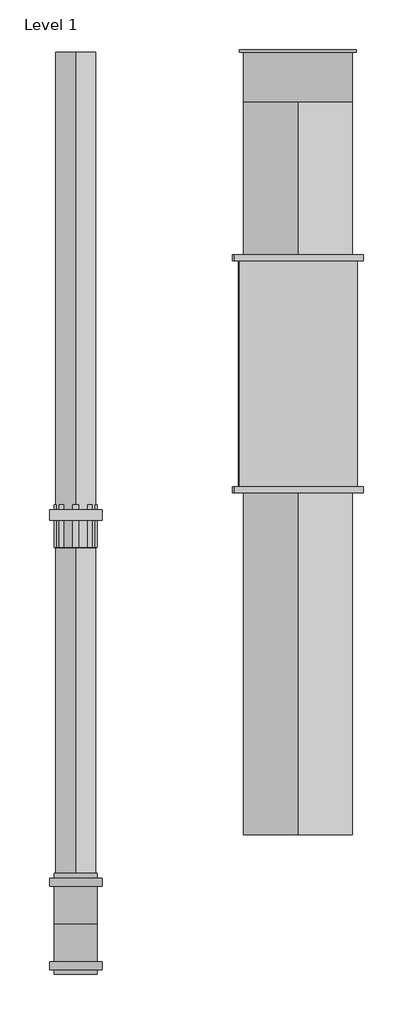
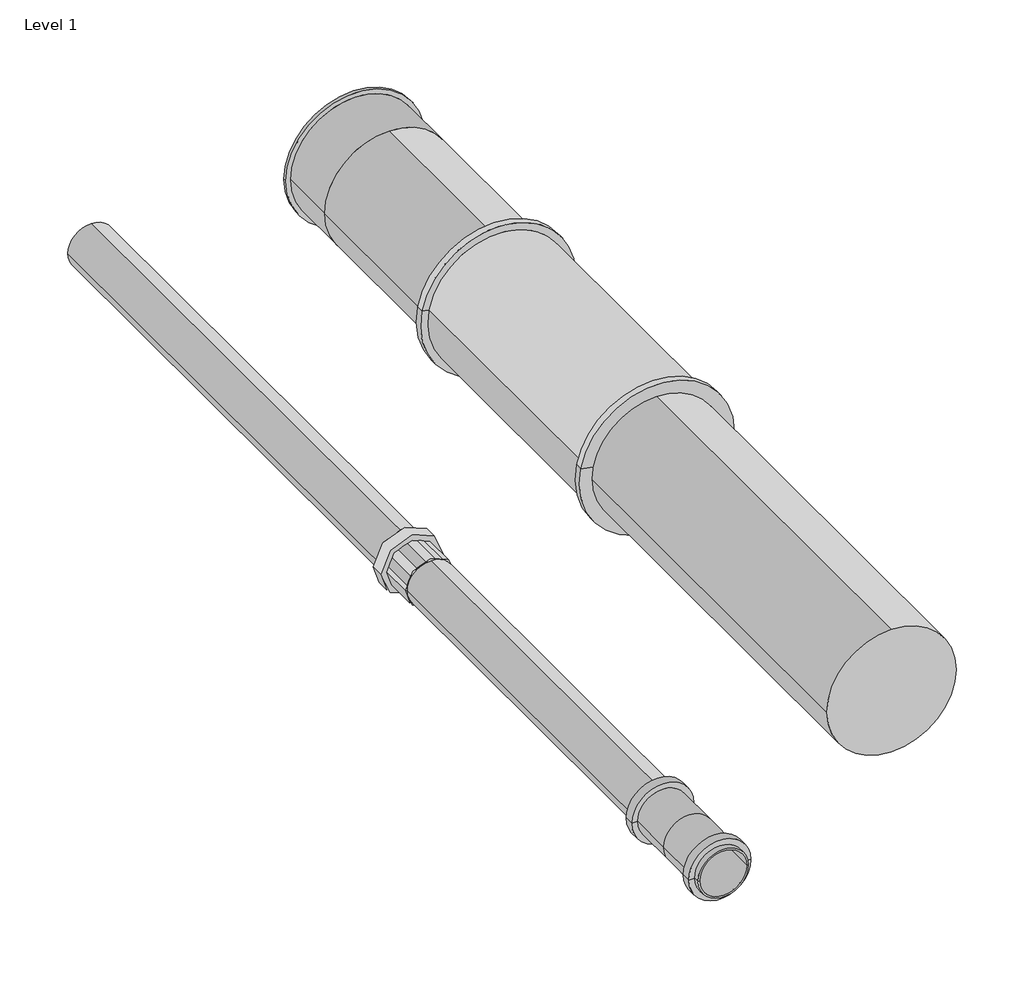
# One storey, incomplete: 4 pipe fittings, 3 pipe segments.
"""IFC4 building model written with IfcOpenShell, lengths in millimetres."""

from ifc_helpers import new_model, si_unit, point, frame, frame_2d, origin, place, context, project, spatial, circle_curve, trimmed, segment, composite_curve, outline, extrude, transform, mapped, element, save
from components import grey_8c20275c, plain_end_d811470f, socket_end_ac9cdf55, var_84020337

model = new_model("IFC4")

# Units and contexts
model_context = context("Model", 3, world=origin())
ifc_project = project(units=[si_unit("LENGTHUNIT", "METRE", prefix="MILLI")], contexts=[model_context])

# Site, building, storey
site = spatial("IfcSite", under=ifc_project)
building = spatial("IfcBuilding", under=site)
storey = spatial("IfcBuildingStorey", under=building, Name="Level 1", Elevation=0.0)

# Pipe fittings
placement = place(None, origin())
grey_shape = grey_8c20275c(model_context)
element("IfcPipeFitting", 1, ObjectType="PIF_UN_S&W PVC-HT Pipe Socket : grey", at=placement, inside=storey, context=model_context, shape_type="MappedRepresentation", body=[
    mapped(grey_shape, transform((2839.6807301, 2063.8966364, 0.0), x_axis=(0.0, -1.0, 0.0), y_axis=(1.0, 0.0, 0.0), z_axis=(0.0, 0.0, 1.0))),
])
plain_end_shape = plain_end_d811470f(model_context)
element("IfcPipeFitting", 2, ObjectType="PIF_UN_S&W PVC-HT Coupler GY ø40_Wavin : plain_end", at=placement, inside=storey, context=model_context, shape_type="MappedRepresentation", body=[
    mapped(plain_end_shape, transform((2839.6807301, 1683.3966364, 0.0), x_axis=(0.0, -1.0, 0.0), y_axis=(1.0, 0.0, 0.0), z_axis=(0.0, 0.0, 1.0))),
])
socket_end_shape = socket_end_ac9cdf55(model_context)
element("IfcPipeFitting", 3, ObjectType="PIF_UN_S&W PVC-HT Cap OR_Wavin : socket_end", at=placement, inside=storey, context=model_context, shape_type="MappedRepresentation", body=[
    mapped(socket_end_shape, transform((3064.2340391, 2513.3682243, 0.0), x_axis=(0.0, 1.0, 0.0), y_axis=(-1.0, 0.0, 0.0), z_axis=(0.0, 0.0, 1.0))),
])
var_shape = var_84020337(model_context)
element("IfcPipeFitting", 4, ObjectType="PIA_UN_S&W PVC-HT Protection Coupler_Wavin : var.", at=placement, inside=storey, context=model_context, shape_type="MappedRepresentation", body=[
    mapped(var_shape, transform((3074.89054, 2239.0352425, 53.9577519), x_axis=(0.0, 1.0, 0.0), y_axis=(-0.981050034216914, 0.0, 0.19375456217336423), z_axis=(0.19375456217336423, 0.0, 0.981050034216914))),
])

# Pipe segments
element("IfcPipeSegment", 5, ObjectType="Wavin PVC-HT", at=placement, inside=storey, context=model_context, shape_type="SweptSolid", body=[
    extrude(outline(composite_curve([segment(trimmed(circle_curve(frame_2d((0.0, 2839.6807301)), 20.0), [point((0.0, 2819.6807301))], [point((-20.0, 2839.6807301))], False, "CARTESIAN"), True, "CONTINUOUS"), segment(trimmed(circle_curve(frame_2d((0.0, 2839.6807301)), 20.0), [point((-20.0, 2839.6807301))], [point((0.0, 2859.6807301))], False, "CARTESIAN"), True, "CONTINUOUS"), segment(trimmed(circle_curve(frame_2d((0.0, 2839.6807301)), 20.0), [point((0.0, 2859.6807301))], [point((20.0, 2839.6807301))], False, "CARTESIAN"), True, "CONTINUOUS"), segment(trimmed(circle_curve(frame_2d((0.0, 2839.6807301)), 20.0), [point((20.0, 2839.6807301))], [point((0.0, 2819.6807301))], False, "CARTESIAN"), True, "CONTINUOUS")], self_intersect=False)), frame((0.0, 1683.8966364, 0.0), z_axis=(0.0, 1.0, 0.0), x_axis=(0.0, 0.0, 1.0)), (0.0, 0.0, 1.0), 379.0),
])
element("IfcPipeSegment", 6, ObjectType="Wavin PVC-HT", at=placement, inside=storey, context=model_context, shape_type="SweptSolid", body=[
    extrude(outline(composite_curve([segment(trimmed(circle_curve(frame_2d((0.0, 2839.6807301)), 20.0), [point((0.0, 2819.6807301))], [point((-20.0, 2839.6807301))], False, "CARTESIAN"), True, "CONTINUOUS"), segment(trimmed(circle_curve(frame_2d((0.0, 2839.6807301)), 20.0), [point((-20.0, 2839.6807301))], [point((0.0, 2859.6807301))], False, "CARTESIAN"), True, "CONTINUOUS"), segment(trimmed(circle_curve(frame_2d((0.0, 2839.6807301)), 20.0), [point((0.0, 2859.6807301))], [point((20.0, 2839.6807301))], False, "CARTESIAN"), True, "CONTINUOUS"), segment(trimmed(circle_curve(frame_2d((0.0, 2839.6807301)), 20.0), [point((20.0, 2839.6807301))], [point((0.0, 2819.6807301))], False, "CARTESIAN"), True, "CONTINUOUS")], self_intersect=False)), frame((0.0, 2063.8966364, 0.0), z_axis=(0.0, 1.0, 0.0), x_axis=(0.0, 0.0, 1.0)), (0.0, 0.0, 1.0), 499.4715879),
])
element("IfcPipeSegment", 7, ObjectType="Wavin PVC-HT Orange", at=placement, inside=storey, context=model_context, shape_type="SweptSolid", body=[
    extrude(outline(composite_curve([segment(trimmed(circle_curve(frame_2d((0.0, 3064.2340391)), 55.0), [point((0.0, 3009.2340391))], [point((-55.0, 3064.2340391))], False, "CARTESIAN"), True, "CONTINUOUS"), segment(trimmed(circle_curve(frame_2d((0.0, 3064.2340391)), 55.0), [point((-55.0, 3064.2340391))], [point((0.0, 3119.2340391))], False, "CARTESIAN"), True, "CONTINUOUS"), segment(trimmed(circle_curve(frame_2d((0.0, 3064.2340391)), 55.0), [point((0.0, 3119.2340391))], [point((55.0, 3064.2340391))], False, "CARTESIAN"), True, "CONTINUOUS"), segment(trimmed(circle_curve(frame_2d((0.0, 3064.2340391)), 55.0), [point((55.0, 3064.2340391))], [point((0.0, 3009.2340391))], False, "CARTESIAN"), True, "CONTINUOUS")], self_intersect=False)), frame((0.0, 1773.3682243, 0.0), z_axis=(0.0, 1.0, 0.0), x_axis=(0.0, 0.0, 1.0)), (0.0, 0.0, 1.0), 740.0),
])

save(model, "model.ifc")
